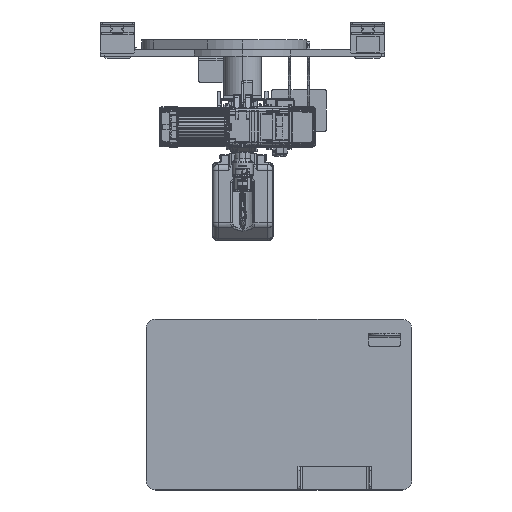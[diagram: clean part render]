
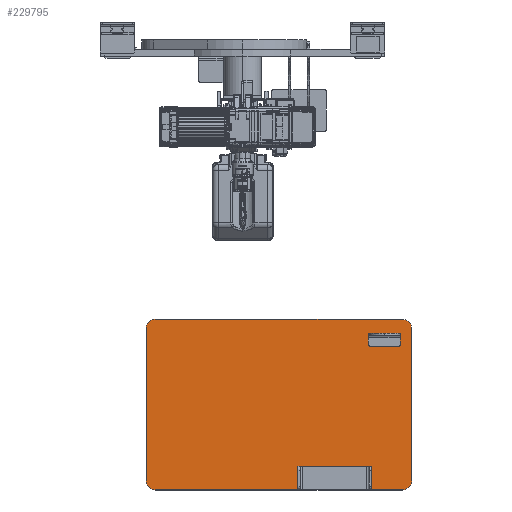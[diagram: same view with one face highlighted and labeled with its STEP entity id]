
A CAD part, top view. The second image highlights one B-rep face of the part: STEP entity #229795.
In plain terms, the highlighted planar face has unit normal (0, 0, 1).
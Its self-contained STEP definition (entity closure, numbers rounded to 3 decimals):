
#2384 = VERTEX_POINT ( 'NONE', #143252 ) ;
#4005 = CARTESIAN_POINT ( 'NONE',  ( -254.322, 835., 91. ) ) ;
#24188 = ORIENTED_EDGE ( 'NONE', *, *, #162547, .T. ) ;
#29306 = DIRECTION ( 'NONE',  ( 0., 0., 1. ) ) ;
#30769 = CARTESIAN_POINT ( 'NONE',  ( -229.322, 835., 91. ) ) ;
#32739 = LINE ( 'NONE', #123812, #155514 ) ;
#37179 = VECTOR ( 'NONE', #100215, 1000. ) ;
#41397 = CARTESIAN_POINT ( 'NONE',  ( -229.322, 1235., 91. ) ) ;
#41653 = AXIS2_PLACEMENT_3D ( 'NONE', #47250, #132410, #136848 ) ;
#44057 = CARTESIAN_POINT ( 'NONE',  ( 420.678, 810., 91. ) ) ;
#45232 = AXIS2_PLACEMENT_3D ( 'NONE', #190719, #148876, #239844 ) ;
#47250 = CARTESIAN_POINT ( 'NONE',  ( 420.678, 1235., 91. ) ) ;
#47365 = CARTESIAN_POINT ( 'NONE',  ( 420.678, 835., 91. ) ) ;
#47961 = LINE ( 'NONE', #153024, #90844 ) ;
#49518 = CARTESIAN_POINT ( 'NONE',  ( -254.322, 810., 91. ) ) ;
#56173 = AXIS2_PLACEMENT_3D ( 'NONE', #47365, #292055, #204117 ) ;
#58989 = ORIENTED_EDGE ( 'NONE', *, *, #162242, .T. ) ;
#72143 = VERTEX_POINT ( 'NONE', #211864 ) ;
#72945 = CARTESIAN_POINT ( 'NONE',  ( -229.322, 1260., 91. ) ) ;
#77333 = CARTESIAN_POINT ( 'NONE',  ( 445.678, 835., 91. ) ) ;
#79200 = AXIS2_PLACEMENT_3D ( 'NONE', #30769, #29306, #163703 ) ;
#80207 = EDGE_CURVE ( 'NONE', #172176, #250086, #240397, .T. ) ;
#83267 = EDGE_CURVE ( 'NONE', #2384, #265051, #47961, .T. ) ;
#90844 = VECTOR ( 'NONE', #288646, 1000. ) ;
#97265 = LINE ( 'NONE', #49518, #37179 ) ;
#100215 = DIRECTION ( 'NONE',  ( 1., 0., 0. ) ) ;
#102403 = ORIENTED_EDGE ( 'NONE', *, *, #83267, .T. ) ;
#104366 = CARTESIAN_POINT ( 'NONE',  ( 445.678, 1235., 91. ) ) ;
#122071 = FACE_OUTER_BOUND ( 'NONE', #226800, .T. ) ;
#123812 = CARTESIAN_POINT ( 'NONE',  ( 445.678, 1260., 91. ) ) ;
#127604 = EDGE_CURVE ( 'NONE', #72143, #163682, #97265, .T. ) ;
#132410 = DIRECTION ( 'NONE',  ( 0., 0., 1. ) ) ;
#132468 = DIRECTION ( 'NONE',  ( 0., 0., 1. ) ) ;
#136848 = DIRECTION ( 'NONE',  ( 1., 0., 0. ) ) ;
#143252 = CARTESIAN_POINT ( 'NONE',  ( 420.678, 1260., 91. ) ) ;
#147974 = DIRECTION ( 'NONE',  ( 0., -1., 0. ) ) ;
#148876 = DIRECTION ( 'NONE',  ( 0., 0., 1. ) ) ;
#153024 = CARTESIAN_POINT ( 'NONE',  ( -254.322, 1260., 91. ) ) ;
#154244 = CARTESIAN_POINT ( 'NONE',  ( -254.322, 1235., 91. ) ) ;
#155514 = VECTOR ( 'NONE', #214813, 1000. ) ;
#157523 = VERTEX_POINT ( 'NONE', #104366 ) ;
#158429 = ORIENTED_EDGE ( 'NONE', *, *, #216380, .T. ) ;
#162242 = EDGE_CURVE ( 'NONE', #265051, #172176, #279140, .T. ) ;
#162547 = EDGE_CURVE ( 'NONE', #250086, #72143, #207919, .T. ) ;
#163682 = VERTEX_POINT ( 'NONE', #44057 ) ;
#163703 = DIRECTION ( 'NONE',  ( 1., 0., 0. ) ) ;
#170444 = CIRCLE ( 'NONE', #41653, 25. ) ;
#172176 = VERTEX_POINT ( 'NONE', #154244 ) ;
#176460 = EDGE_CURVE ( 'NONE', #163682, #187911, #208747, .T. ) ;
#187911 = VERTEX_POINT ( 'NONE', #77333 ) ;
#190719 = CARTESIAN_POINT ( 'NONE',  ( 95.678, 1035., 91. ) ) ;
#197977 = ORIENTED_EDGE ( 'NONE', *, *, #176460, .T. ) ;
#204117 = DIRECTION ( 'NONE',  ( 1., 0., 0. ) ) ;
#207919 = CIRCLE ( 'NONE', #79200, 25. ) ;
#208747 = CIRCLE ( 'NONE', #56173, 25. ) ;
#210023 = ORIENTED_EDGE ( 'NONE', *, *, #80207, .T. ) ;
#211864 = CARTESIAN_POINT ( 'NONE',  ( -229.322, 810., 91. ) ) ;
#212159 = CARTESIAN_POINT ( 'NONE',  ( -254.322, 1260., 91. ) ) ;
#214813 = DIRECTION ( 'NONE',  ( 0., 1., 0. ) ) ;
#216380 = EDGE_CURVE ( 'NONE', #157523, #2384, #170444, .T. ) ;
#223490 = DIRECTION ( 'NONE',  ( 1., 0., 0. ) ) ;
#226800 = EDGE_LOOP ( 'NONE', ( #210023, #24188, #281495, #197977, #289467, #158429, #102403, #58989 ) ) ;
#229795 = ADVANCED_FACE ( 'NONE', ( #122071 ), #262168, .T. ) ;
#239844 = DIRECTION ( 'NONE',  ( 1., 0., 0. ) ) ;
#240397 = LINE ( 'NONE', #212159, #284966 ) ;
#250086 = VERTEX_POINT ( 'NONE', #4005 ) ;
#260207 = AXIS2_PLACEMENT_3D ( 'NONE', #41397, #132468, #223490 ) ;
#262168 = PLANE ( 'NONE',  #45232 ) ;
#265051 = VERTEX_POINT ( 'NONE', #72945 ) ;
#279140 = CIRCLE ( 'NONE', #260207, 25. ) ;
#281495 = ORIENTED_EDGE ( 'NONE', *, *, #127604, .T. ) ;
#284966 = VECTOR ( 'NONE', #147974, 1000. ) ;
#288646 = DIRECTION ( 'NONE',  ( -1., 0., 0. ) ) ;
#289467 = ORIENTED_EDGE ( 'NONE', *, *, #293798, .T. ) ;
#292055 = DIRECTION ( 'NONE',  ( 0., 0., 1. ) ) ;
#293798 = EDGE_CURVE ( 'NONE', #187911, #157523, #32739, .T. ) ;
